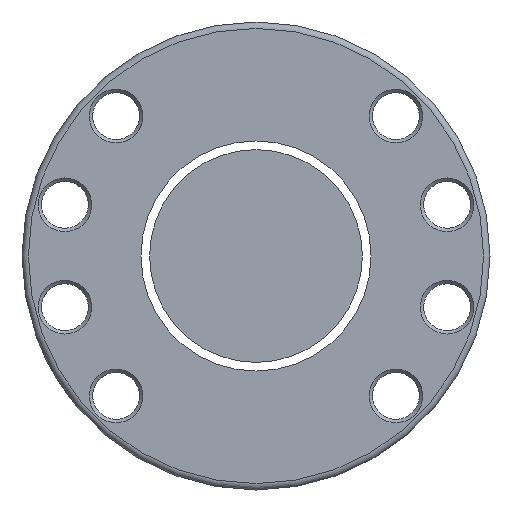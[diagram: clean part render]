
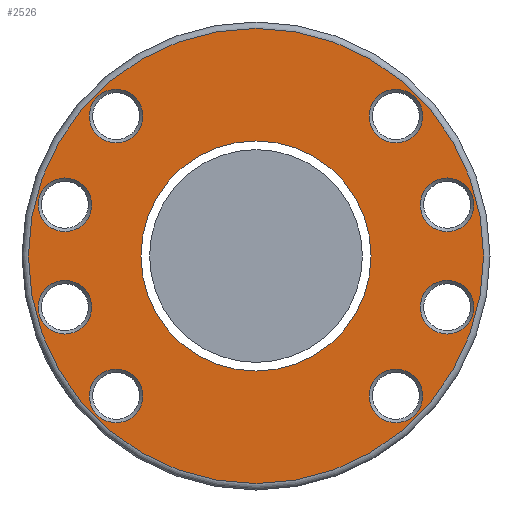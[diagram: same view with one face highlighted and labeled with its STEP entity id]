
A CAD part, left-side view. The second image highlights one B-rep face of the part: STEP entity #2526.
In plain terms, the highlighted planar face has unit normal (-1, 0, 0).
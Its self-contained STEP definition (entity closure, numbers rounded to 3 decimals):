
#20 = ORIENTED_EDGE ( 'NONE', *, *, #436, .T. ) ;
#43 = CIRCLE ( 'NONE', #935, 53.5 ) ;
#82 = EDGE_LOOP ( 'NONE', ( #2612 ) ) ;
#86 = VERTEX_POINT ( 'NONE', #1873 ) ;
#119 = AXIS2_PLACEMENT_3D ( 'NONE', #1206, #728, #1431 ) ;
#138 = FACE_BOUND ( 'NONE', #351, .T. ) ;
#150 = DIRECTION ( 'NONE',  ( 0., -1., 0. ) ) ;
#164 = EDGE_CURVE ( 'NONE', #1383, #1383, #43, .T. ) ;
#167 = CARTESIAN_POINT ( 'NONE',  ( -88., -32.88, 32.88 ) ) ;
#172 = DIRECTION ( 'NONE',  ( 0., -1., 0. ) ) ;
#190 = EDGE_LOOP ( 'NONE', ( #227 ) ) ;
#227 = ORIENTED_EDGE ( 'NONE', *, *, #2583, .T. ) ;
#234 = DIRECTION ( 'NONE',  ( 1., 0., 0. ) ) ;
#256 = AXIS2_PLACEMENT_3D ( 'NONE', #2635, #1517, #1531 ) ;
#275 = DIRECTION ( 'NONE',  ( 1., 0., 0. ) ) ;
#323 = DIRECTION ( 'NONE',  ( 0., -1., 0. ) ) ;
#351 = EDGE_LOOP ( 'NONE', ( #593 ) ) ;
#374 = FACE_BOUND ( 'NONE', #82, .T. ) ;
#399 = EDGE_CURVE ( 'NONE', #2472, #2472, #2384, .T. ) ;
#436 = EDGE_CURVE ( 'NONE', #1345, #1345, #1723, .T. ) ;
#441 = CARTESIAN_POINT ( 'NONE',  ( -88., -53.5, 0. ) ) ;
#457 = CARTESIAN_POINT ( 'NONE',  ( -88., 32.88, -32.88 ) ) ;
#485 = CIRCLE ( 'NONE', #911, 6.3 ) ;
#492 = VERTEX_POINT ( 'NONE', #2310 ) ;
#522 = CARTESIAN_POINT ( 'NONE',  ( -88., 38.616, 12.035 ) ) ;
#561 = ORIENTED_EDGE ( 'NONE', *, *, #399, .T. ) ;
#591 = CARTESIAN_POINT ( 'NONE',  ( -88., 32.88, 32.88 ) ) ;
#593 = ORIENTED_EDGE ( 'NONE', *, *, #681, .T. ) ;
#632 = EDGE_LOOP ( 'NONE', ( #561 ) ) ;
#681 = EDGE_CURVE ( 'NONE', #492, #492, #485, .T. ) ;
#728 = DIRECTION ( 'NONE',  ( 1., 0., 0. ) ) ;
#757 = CARTESIAN_POINT ( 'NONE',  ( -88., -51.216, -12.035 ) ) ;
#882 = EDGE_CURVE ( 'NONE', #2713, #2713, #1053, .T. ) ;
#911 = AXIS2_PLACEMENT_3D ( 'NONE', #1689, #2198, #150 ) ;
#912 = ORIENTED_EDGE ( 'NONE', *, *, #2369, .T. ) ;
#935 = AXIS2_PLACEMENT_3D ( 'NONE', #1319, #2860, #2644 ) ;
#1001 = EDGE_CURVE ( 'NONE', #2280, #2280, #1674, .T. ) ;
#1046 = DIRECTION ( 'NONE',  ( 0., -1., 0. ) ) ;
#1053 = CIRCLE ( 'NONE', #2295, 6.3 ) ;
#1057 = CIRCLE ( 'NONE', #2712, 6.3 ) ;
#1065 = DIRECTION ( 'NONE',  ( -1., 0., 0. ) ) ;
#1103 = EDGE_CURVE ( 'NONE', #1918, #1918, #2664, .T. ) ;
#1110 = CARTESIAN_POINT ( 'NONE',  ( -88., 44.916, 12.035 ) ) ;
#1133 = CARTESIAN_POINT ( 'NONE',  ( -88., 26.58, -32.88 ) ) ;
#1138 = ORIENTED_EDGE ( 'NONE', *, *, #1103, .T. ) ;
#1139 = DIRECTION ( 'NONE',  ( 1., 0., 0. ) ) ;
#1168 = DIRECTION ( 'NONE',  ( 1., 0., 0. ) ) ;
#1206 = CARTESIAN_POINT ( 'NONE',  ( -88., -44.916, 12.035 ) ) ;
#1259 = FACE_BOUND ( 'NONE', #2510, .T. ) ;
#1307 = EDGE_LOOP ( 'NONE', ( #20 ) ) ;
#1319 = CARTESIAN_POINT ( 'NONE',  ( -88., 0., 0. ) ) ;
#1345 = VERTEX_POINT ( 'NONE', #1133 ) ;
#1352 = CIRCLE ( 'NONE', #119, 6.3 ) ;
#1383 = VERTEX_POINT ( 'NONE', #441 ) ;
#1430 = CARTESIAN_POINT ( 'NONE',  ( -88., 26.58, 32.88 ) ) ;
#1431 = DIRECTION ( 'NONE',  ( 0., -1., 0. ) ) ;
#1450 = EDGE_CURVE ( 'NONE', #2809, #2809, #1057, .T. ) ;
#1469 = FACE_BOUND ( 'NONE', #2139, .T. ) ;
#1474 = VERTEX_POINT ( 'NONE', #1430 ) ;
#1499 = DIRECTION ( 'NONE',  ( 1., 0., 0. ) ) ;
#1515 = FACE_BOUND ( 'NONE', #632, .T. ) ;
#1517 = DIRECTION ( 'NONE',  ( 1., 0., 0. ) ) ;
#1531 = DIRECTION ( 'NONE',  ( 0., 1., 0. ) ) ;
#1589 = CIRCLE ( 'NONE', #2804, 6.3 ) ;
#1605 = DIRECTION ( 'NONE',  ( 0., -1., 0. ) ) ;
#1674 = CIRCLE ( 'NONE', #2054, 6.3 ) ;
#1689 = CARTESIAN_POINT ( 'NONE',  ( -88., 44.916, -12.035 ) ) ;
#1722 = FACE_OUTER_BOUND ( 'NONE', #2678, .T. ) ;
#1723 = CIRCLE ( 'NONE', #1814, 6.3 ) ;
#1737 = FACE_BOUND ( 'NONE', #1307, .T. ) ;
#1802 = EDGE_LOOP ( 'NONE', ( #912 ) ) ;
#1808 = CARTESIAN_POINT ( 'NONE',  ( -88., -44.916, -12.035 ) ) ;
#1814 = AXIS2_PLACEMENT_3D ( 'NONE', #457, #1139, #2044 ) ;
#1873 = CARTESIAN_POINT ( 'NONE',  ( -88., -51.216, 12.035 ) ) ;
#1879 = ORIENTED_EDGE ( 'NONE', *, *, #1450, .T. ) ;
#1918 = VERTEX_POINT ( 'NONE', #2095 ) ;
#1954 = FACE_BOUND ( 'NONE', #1802, .T. ) ;
#2044 = DIRECTION ( 'NONE',  ( 0., -1., 0. ) ) ;
#2054 = AXIS2_PLACEMENT_3D ( 'NONE', #1110, #275, #1605 ) ;
#2074 = DIRECTION ( 'NONE',  ( 0., -1., 0. ) ) ;
#2095 = CARTESIAN_POINT ( 'NONE',  ( -88., 27.05, 0. ) ) ;
#2122 = ORIENTED_EDGE ( 'NONE', *, *, #1001, .T. ) ;
#2138 = PLANE ( 'NONE',  #2853 ) ;
#2139 = EDGE_LOOP ( 'NONE', ( #1879 ) ) ;
#2169 = CARTESIAN_POINT ( 'NONE',  ( -88., 55., 0. ) ) ;
#2186 = EDGE_LOOP ( 'NONE', ( #1138 ) ) ;
#2198 = DIRECTION ( 'NONE',  ( 1., 0., 0. ) ) ;
#2280 = VERTEX_POINT ( 'NONE', #522 ) ;
#2295 = AXIS2_PLACEMENT_3D ( 'NONE', #167, #2599, #323 ) ;
#2310 = CARTESIAN_POINT ( 'NONE',  ( -88., 38.616, -12.035 ) ) ;
#2369 = EDGE_CURVE ( 'NONE', #86, #86, #1352, .T. ) ;
#2384 = CIRCLE ( 'NONE', #2843, 6.3 ) ;
#2387 = FACE_BOUND ( 'NONE', #190, .T. ) ;
#2467 = DIRECTION ( 'NONE',  ( 0., -1., 0. ) ) ;
#2469 = ORIENTED_EDGE ( 'NONE', *, *, #164, .T. ) ;
#2472 = VERTEX_POINT ( 'NONE', #2521 ) ;
#2495 = CARTESIAN_POINT ( 'NONE',  ( -88., -39.18, 32.88 ) ) ;
#2510 = EDGE_LOOP ( 'NONE', ( #2122 ) ) ;
#2521 = CARTESIAN_POINT ( 'NONE',  ( -88., -39.18, -32.88 ) ) ;
#2526 = ADVANCED_FACE ( 'NONE', ( #1722, #138, #1737, #1515, #1469, #1954, #374, #2387, #1259, #2865 ), #2138, .T. ) ;
#2583 = EDGE_CURVE ( 'NONE', #1474, #1474, #1589, .T. ) ;
#2599 = DIRECTION ( 'NONE',  ( 1., 0., 0. ) ) ;
#2612 = ORIENTED_EDGE ( 'NONE', *, *, #882, .T. ) ;
#2635 = CARTESIAN_POINT ( 'NONE',  ( -88., 0., 0. ) ) ;
#2644 = DIRECTION ( 'NONE',  ( 0., -1., 0. ) ) ;
#2664 = CIRCLE ( 'NONE', #256, 27.05 ) ;
#2678 = EDGE_LOOP ( 'NONE', ( #2469 ) ) ;
#2712 = AXIS2_PLACEMENT_3D ( 'NONE', #1808, #234, #2467 ) ;
#2713 = VERTEX_POINT ( 'NONE', #2495 ) ;
#2771 = CARTESIAN_POINT ( 'NONE',  ( -88., -32.88, -32.88 ) ) ;
#2804 = AXIS2_PLACEMENT_3D ( 'NONE', #591, #1499, #1046 ) ;
#2809 = VERTEX_POINT ( 'NONE', #757 ) ;
#2843 = AXIS2_PLACEMENT_3D ( 'NONE', #2771, #1168, #2074 ) ;
#2853 = AXIS2_PLACEMENT_3D ( 'NONE', #2169, #1065, #172 ) ;
#2860 = DIRECTION ( 'NONE',  ( -1., 0., 0. ) ) ;
#2865 = FACE_BOUND ( 'NONE', #2186, .T. ) ;
